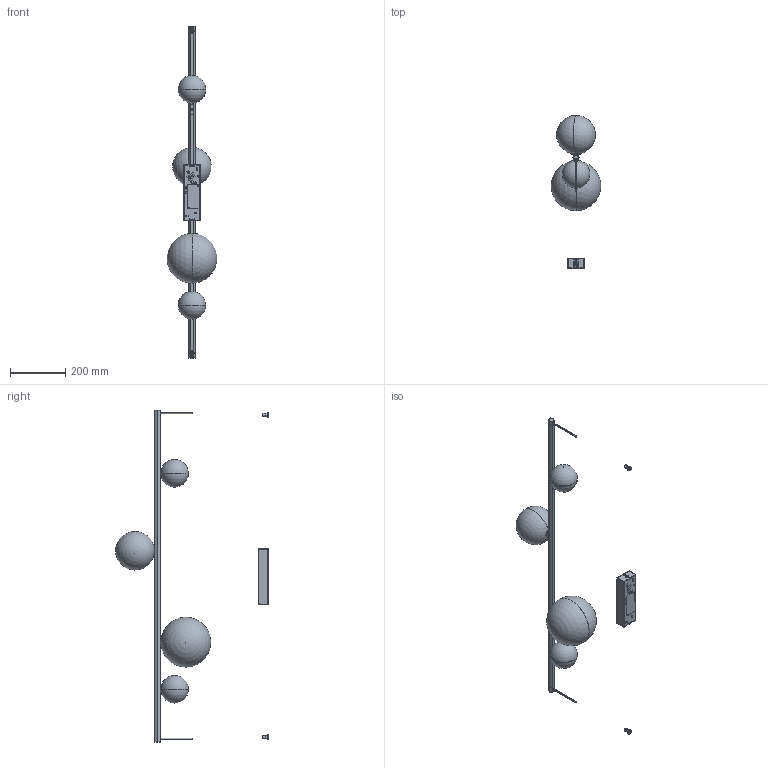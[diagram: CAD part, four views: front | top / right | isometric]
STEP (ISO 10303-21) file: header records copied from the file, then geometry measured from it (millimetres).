
FILE_DESCRIPTION (( 'STEP AP214' ), '1' );
FILE_NAME ('Random Stick Medium.STEP', '2026-06-11T09:47:17', ( '' ), ( '' ), 'SwSTEP 2.0', 'SolidWorks 2025', '' );
FILE_SCHEMA (( 'AUTOMOTIVE_DESIGN' ));
Length unit declared in the file: millimetre
Products named in the file (45): V200078_Rev01; RAN-Dent_Con_RAN-107; 234M002_00; 234M007_00; 234M008_00; DAD-DadiEsagonali_DAD-103; 171V006_10; 234M001_120; GRA-EI_EC_GRA-109; 234M009_00; MIN-0064_Forcella; 234M004_00; 234Z002_10; LNS-0012_00; LED-0225_00; Cover15_Rev00; RAN-Dent_Est_RAN-102; 234Z002_14; 234M012_00; 234M006_00; VIT-TSP_IC_VIT-0078; VIT-TSP_EI_VIT-0008; 234Z003_00; MOR-0045; 234Z002_18; V200077_Rev00; VIT-TSP_IC_VIT-0055; LED-0224_2700K; GRA-017_GRA-017; Random Stick Medium; Morsetto a vite Mammut_M093H_MOR-015 x 3; THE-00XX_00; TRA-0253_00; 234M014_00; 234M005_00; MIN-0243_Steab_5475-3-07; 234M010_00; GRA-010_Steab 5068-10-16; 234M011_00; 234Z001_27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
Assembly tree (84 placements, depth 4):
  Random Stick Medium
    234M001_120
    234Z002_14
      234M002_00
      LED-Luxe15-1_350mA_2700k con cavi 560mm
        LED-0224_2700K
        Cover15_Rev00
        THE-00XX_00
      234M006_00
      234M004_00
      234M005_00
      234M003_00
      V200078_Rev01
      GRA-EI_EP_GRA-100  x2
      234P001_00
    234Z002_18
      234M002_00
      LED-Luxe15-1_350mA_2700k con cavi 560mm
        LED-0224_2700K
        Cover15_Rev00
        THE-00XX_00
      234M006_00
      234M004_00
      234M005_00
      234M003_00
      V200077_Rev00
      GRA-EI_EP_GRA-100  x2
      234P001_00
    234Z001_27  x2
      LNS-0012_00
      234M007_00
      LED-0225_00
      VIT-TSP_EI_VIT-0008
    234M008_00  x2
    234M009_00  x2
    234Z003_00
      234M010_00
      234M011_00
      TRA-0253_00
      Morsetto a vite Mammut_M093H_MOR-015 x 3
      MIN-0243_Steab_5475-3-07  x2
      MIN-0244_Steab 5465  x2
      GRA-017_GRA-017  x2
      MIN-0064_Forcella
      VIT-TSP_IC_VIT-0055  x3
      VIT-TSP_IC_VIT-0078
      RAN-Dent_Est_RAN-102
      DAD-DadiEsagonali_DAD-103  x4
      VIT-TSP_EI_VIT-0008  x2
      RAN-Dent_Con_RAN-107
      MOR-0045  x2
    234M014_00  x2
    234M012_00  x2
    GRA-010_Steab 5068-10-16  x2
    GRA-EI_EC_GRA-109  x2
    234Z002_10  x2
      234M002_00
      LED-Luxe15-1_350mA_2700k con cavi 560mm
        LED-0224_2700K
        Cover15_Rev00
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Bounding box: 180 x 551.75 x 1199 mm (x, y, z)
Volume: 766394.5 mm3; surface area: 763184.4 mm2
Topology: 139 solids, 139 shells, 4310 faces, 10776 edges, 6706 vertices
Faces by surface type: plane 1824, cylinder 1177, bspline 694, cone 517, torus 66, sphere 32
Entity records: 62737 total; most frequent: CARTESIAN_POINT 22251, ORIENTED_EDGE 8330, DIRECTION 7600, EDGE_CURVE 4165, AXIS2_PLACEMENT_3D 2679, VERTEX_POINT 2634, VECTOR 2242, LINE 2242
